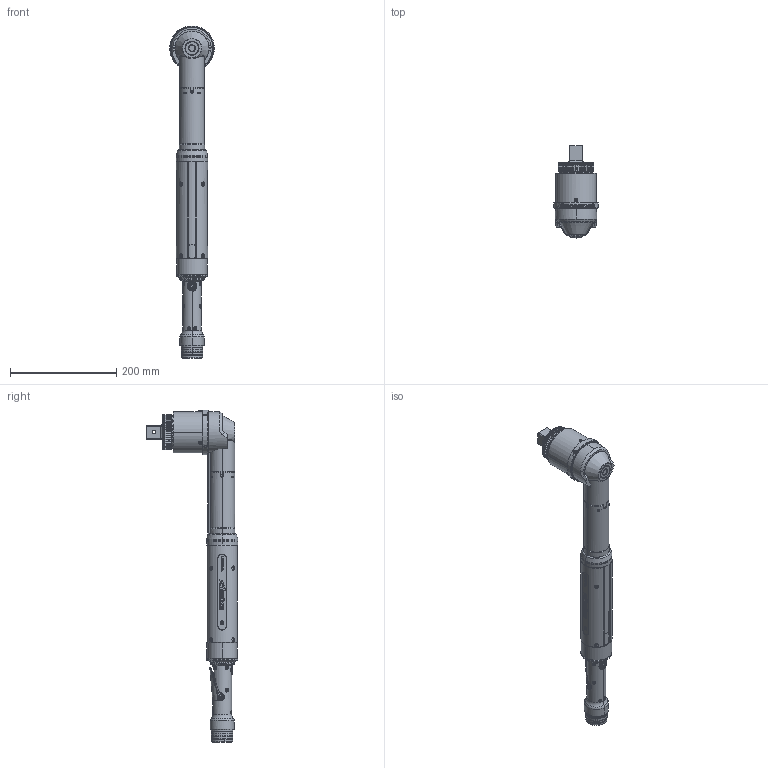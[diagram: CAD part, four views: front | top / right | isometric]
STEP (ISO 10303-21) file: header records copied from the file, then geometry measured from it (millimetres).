
FILE_DESCRIPTION (( 'STEP AP203' ), '1' );
FILE_NAME ('AEN3571000A.STEP', '2014-08-26T18:30:14', ( 'AIMCO' ), ( '' ), 'SwSTEP 2.0', 'SolidWorks 2014', '' );
FILE_SCHEMA (( 'CONFIG_CONTROL_DESIGN' ));
Length unit declared in the file: inch
Products named in the file (1): AEN3571000A
Bounding box: 83.82 x 172.18 x 624.11 mm (x, y, z)
Surface area: 236805.4 mm2 (no closed solid volume)
Topology: 0 solids, 118 shells, 1417 faces, 5385 edges, 3840 vertices
Faces by surface type: cylinder 415, plane 392, bspline 219, torus 218, cone 165, sphere 8
Entity records: 113374 total; most frequent: CARTESIAN_POINT 72574, ORIENTED_EDGE 8217, DIRECTION 7317, EDGE_CURVE 5382, VERTEX_POINT 3840, AXIS2_PLACEMENT_3D 2715, LINE 1887, VECTOR 1887
